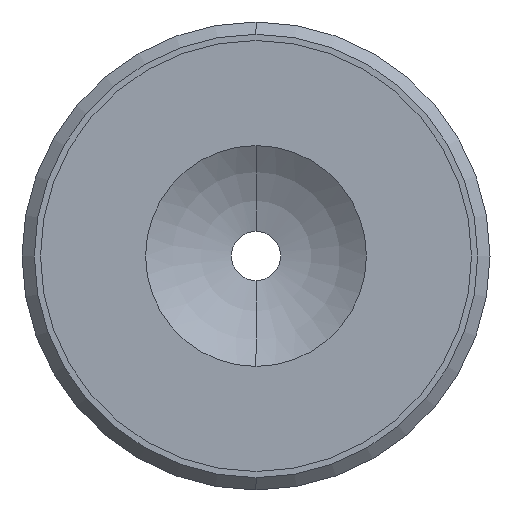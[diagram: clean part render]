
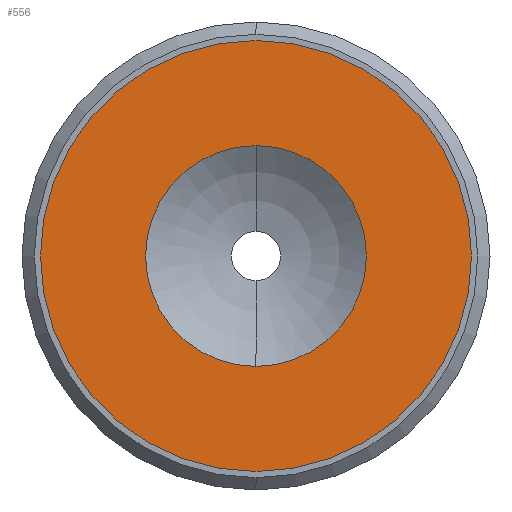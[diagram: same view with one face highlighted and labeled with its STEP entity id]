
A CAD part, left-side view. The second image highlights one B-rep face of the part: STEP entity #556.
In plain terms, the highlighted planar face has unit normal (-1, 0, 0).
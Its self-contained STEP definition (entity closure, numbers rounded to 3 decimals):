
#3 = ORIENTED_EDGE ( 'NONE', *, *, #572, .T. ) ;
#4 = ORIENTED_EDGE ( 'NONE', *, *, #567, .F. ) ;
#19 = AXIS2_PLACEMENT_3D ( 'NONE', #163, #484, #211 ) ;
#27 = DIRECTION ( 'NONE',  ( -1., 0., 0. ) ) ;
#28 = AXIS2_PLACEMENT_3D ( 'NONE', #436, #258, #565 ) ;
#39 = AXIS2_PLACEMENT_3D ( 'NONE', #299, #27, #349 ) ;
#55 = CARTESIAN_POINT ( 'NONE',  ( 0., 0., 0. ) ) ;
#63 = CIRCLE ( 'NONE', #39, 17.5 ) ;
#107 = DIRECTION ( 'NONE',  ( 0., 0., 1. ) ) ;
#138 = CARTESIAN_POINT ( 'NONE',  ( 0., 0., -17.5 ) ) ;
#139 = VERTEX_POINT ( 'NONE', #138 ) ;
#160 = CARTESIAN_POINT ( 'NONE',  ( 0., 0., 8.962 ) ) ;
#163 = CARTESIAN_POINT ( 'NONE',  ( 0., 0., 0. ) ) ;
#191 = FACE_OUTER_BOUND ( 'NONE', #328, .T. ) ;
#211 = DIRECTION ( 'NONE',  ( 0., 0., 1. ) ) ;
#237 = AXIS2_PLACEMENT_3D ( 'NONE', #55, #383, #107 ) ;
#258 = DIRECTION ( 'NONE',  ( 1., 0., 0. ) ) ;
#265 = DIRECTION ( 'NONE',  ( -1., 0., 0. ) ) ;
#286 = ORIENTED_EDGE ( 'NONE', *, *, #399, .T. ) ;
#291 = CARTESIAN_POINT ( 'NONE',  ( 0., 0., 17.5 ) ) ;
#298 = FACE_BOUND ( 'NONE', #537, .T. ) ;
#299 = CARTESIAN_POINT ( 'NONE',  ( 0., 0., 0. ) ) ;
#322 = VERTEX_POINT ( 'NONE', #291 ) ;
#328 = EDGE_LOOP ( 'NONE', ( #3, #286 ) ) ;
#349 = DIRECTION ( 'NONE',  ( 0., 0., 1. ) ) ;
#383 = DIRECTION ( 'NONE',  ( -1., 0., 0. ) ) ;
#397 = VERTEX_POINT ( 'NONE', #445 ) ;
#399 = EDGE_CURVE ( 'NONE', #139, #322, #479, .T. ) ;
#436 = CARTESIAN_POINT ( 'NONE',  ( 0., 8.962, 0. ) ) ;
#437 = CIRCLE ( 'NONE', #237, 8.962 ) ;
#438 = CIRCLE ( 'NONE', #19, 8.962 ) ;
#439 = ORIENTED_EDGE ( 'NONE', *, *, #455, .F. ) ;
#445 = CARTESIAN_POINT ( 'NONE',  ( 0., 0., -8.962 ) ) ;
#455 = EDGE_CURVE ( 'NONE', #553, #397, #437, .T. ) ;
#479 = CIRCLE ( 'NONE', #533, 17.5 ) ;
#484 = DIRECTION ( 'NONE',  ( -1., 0., 0. ) ) ;
#523 = PLANE ( 'NONE',  #28 ) ;
#531 = CARTESIAN_POINT ( 'NONE',  ( 0., 0., 0. ) ) ;
#533 = AXIS2_PLACEMENT_3D ( 'NONE', #531, #265, #573 ) ;
#537 = EDGE_LOOP ( 'NONE', ( #439, #4 ) ) ;
#553 = VERTEX_POINT ( 'NONE', #160 ) ;
#556 = ADVANCED_FACE ( 'NONE', ( #298, #191 ), #523, .F. ) ;
#565 = DIRECTION ( 'NONE',  ( 0., 0., -1. ) ) ;
#567 = EDGE_CURVE ( 'NONE', #397, #553, #438, .T. ) ;
#572 = EDGE_CURVE ( 'NONE', #322, #139, #63, .T. ) ;
#573 = DIRECTION ( 'NONE',  ( 0., 0., 1. ) ) ;
